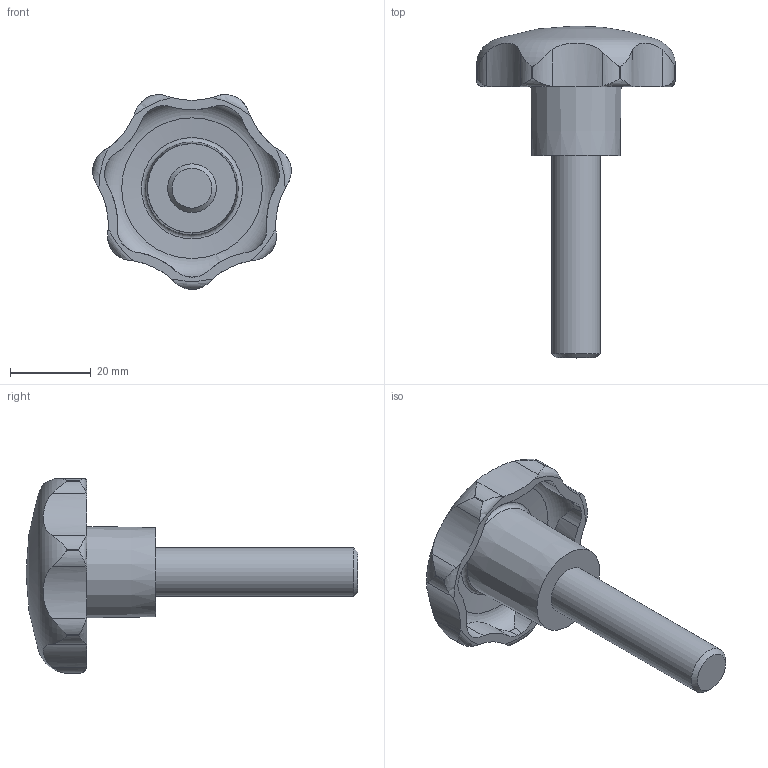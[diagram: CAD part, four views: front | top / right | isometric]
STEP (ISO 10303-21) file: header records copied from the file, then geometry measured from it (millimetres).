
FILE_DESCRIPTION( ( 'STEP AP203' ), '1' );
FILE_NAME( 'C:/Temp/Ganter_Step_05_03_2020/data/2_2/gn_6336_4/gn_6336_4_st/Star knob GN 6336.4-ST-50-M12-50.stp', '2020-03-05T12:07:42', ( 'License CC BY-ND 4.0' ), ( 'CADENAS' ), ' ', 'PARTsolutions', ' ' );
FILE_SCHEMA( ( 'CONFIG_CONTROL_DESIGN' ) );
Length unit declared in the file: millimetre
Products named in the file (1): _Star knob GN 6336.4-ST-50-M12-50
Bounding box: 49.04 x 82 x 48.12 mm (x, y, z)
Volume: 26794.9 mm3; surface area: 9327.1 mm2
Topology: 1 solids, 1 shells, 74 faces, 209 edges, 138 vertices
Faces by surface type: cylinder 50, torus 10, cone 10, plane 3, sphere 1
Full cylindrical faces by diameter (mm): 12 x1
Entity records: 3234 total; most frequent: CARTESIAN_POINT 1425, ORIENTED_EDGE 394, DIRECTION 334, EDGE_CURVE 197, AXIS2_PLACEMENT_3D 146, VERTEX_POINT 135, B_SPLINE_CURVE_WITH_KNOTS 84, EDGE_LOOP 83
